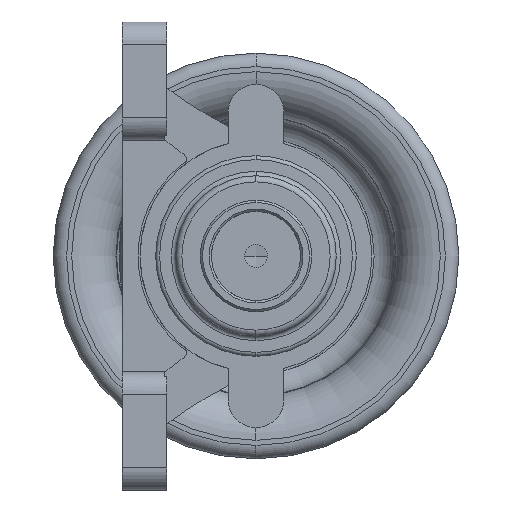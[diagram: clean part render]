
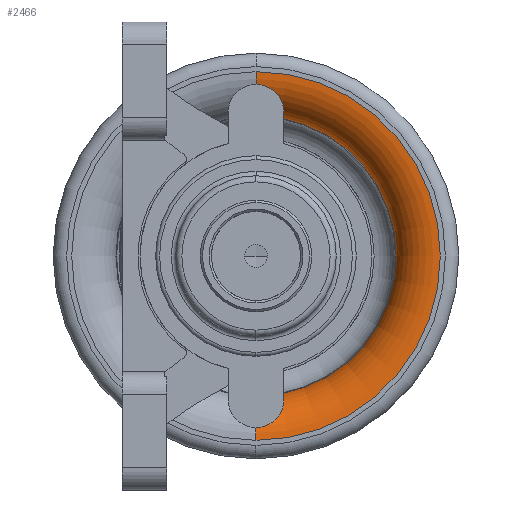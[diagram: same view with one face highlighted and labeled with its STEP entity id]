
A CAD part, left-side view. The second image highlights one B-rep face of the part: STEP entity #2466.
In plain terms, the highlighted toroidal (fillet/blend) face has major radius 82.695 mm and minor radius 20 mm.
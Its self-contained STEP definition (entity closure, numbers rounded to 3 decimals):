
#41 = CIRCLE ( 'NONE', #8813, 20. ) ;
#326 = CIRCLE ( 'NONE', #7730, 82.695 ) ;
#686 = DIRECTION ( 'NONE',  ( -1., 0., 0. ) ) ;
#843 = ORIENTED_EDGE ( 'NONE', *, *, #8097, .F. ) ;
#1159 = DIRECTION ( 'NONE',  ( -1., 0., 0. ) ) ;
#1197 = AXIS2_PLACEMENT_3D ( 'NONE', #6977, #8945, #6041 ) ;
#1217 = DIRECTION ( 'NONE',  ( 0., 0., 1. ) ) ;
#1437 = CIRCLE ( 'NONE', #10038, 20. ) ;
#2196 = ORIENTED_EDGE ( 'NONE', *, *, #3486, .F. ) ;
#2264 = VERTEX_POINT ( 'NONE', #6465 ) ;
#2466 = ADVANCED_FACE ( 'NONE', ( #6274 ), #4862, .T. ) ;
#2512 = CARTESIAN_POINT ( 'NONE',  ( -42.5, 0., -82.695 ) ) ;
#2851 = DIRECTION ( 'NONE',  ( 0., 0., 1. ) ) ;
#3079 = DIRECTION ( 'NONE',  ( 0., 0., -1. ) ) ;
#3190 = VERTEX_POINT ( 'NONE', #2512 ) ;
#3486 = EDGE_CURVE ( 'NONE', #3190, #5833, #1437, .T. ) ;
#3572 = CARTESIAN_POINT ( 'NONE',  ( -24.937, 0., 62.844 ) ) ;
#3690 = AXIS2_PLACEMENT_3D ( 'NONE', #11964, #686, #4349 ) ;
#4259 = CARTESIAN_POINT ( 'NONE',  ( -22.5, 0., 82.695 ) ) ;
#4349 = DIRECTION ( 'NONE',  ( 0., 0., 1. ) ) ;
#4862 = TOROIDAL_SURFACE ( 'NONE', #3690, 82.695, 20. ) ;
#5255 = CARTESIAN_POINT ( 'NONE',  ( -24.937, 0., -62.844 ) ) ;
#5833 = VERTEX_POINT ( 'NONE', #5255 ) ;
#6041 = DIRECTION ( 'NONE',  ( 0., 0., 1. ) ) ;
#6274 = FACE_OUTER_BOUND ( 'NONE', #10134, .T. ) ;
#6465 = CARTESIAN_POINT ( 'NONE',  ( -42.5, 0., 82.695 ) ) ;
#6977 = CARTESIAN_POINT ( 'NONE',  ( -24.937, 0., 0. ) ) ;
#7042 = EDGE_CURVE ( 'NONE', #2264, #11613, #41, .T. ) ;
#7730 = AXIS2_PLACEMENT_3D ( 'NONE', #10243, #1159, #1217 ) ;
#8026 = DIRECTION ( 'NONE',  ( 0., -1., 0. ) ) ;
#8097 = EDGE_CURVE ( 'NONE', #5833, #11613, #11784, .T. ) ;
#8813 = AXIS2_PLACEMENT_3D ( 'NONE', #4259, #8026, #3079 ) ;
#8945 = DIRECTION ( 'NONE',  ( -1., 0., 0. ) ) ;
#9018 = ORIENTED_EDGE ( 'NONE', *, *, #7042, .T. ) ;
#10038 = AXIS2_PLACEMENT_3D ( 'NONE', #12149, #11194, #2851 ) ;
#10134 = EDGE_LOOP ( 'NONE', ( #2196, #10563, #9018, #843 ) ) ;
#10243 = CARTESIAN_POINT ( 'NONE',  ( -42.5, 0., 0. ) ) ;
#10563 = ORIENTED_EDGE ( 'NONE', *, *, #10873, .T. ) ;
#10873 = EDGE_CURVE ( 'NONE', #3190, #2264, #326, .T. ) ;
#11194 = DIRECTION ( 'NONE',  ( 0., 1., 0. ) ) ;
#11613 = VERTEX_POINT ( 'NONE', #3572 ) ;
#11784 = CIRCLE ( 'NONE', #1197, 62.844 ) ;
#11964 = CARTESIAN_POINT ( 'NONE',  ( -22.5, 0., 0. ) ) ;
#12149 = CARTESIAN_POINT ( 'NONE',  ( -22.5, 0., -82.695 ) ) ;
